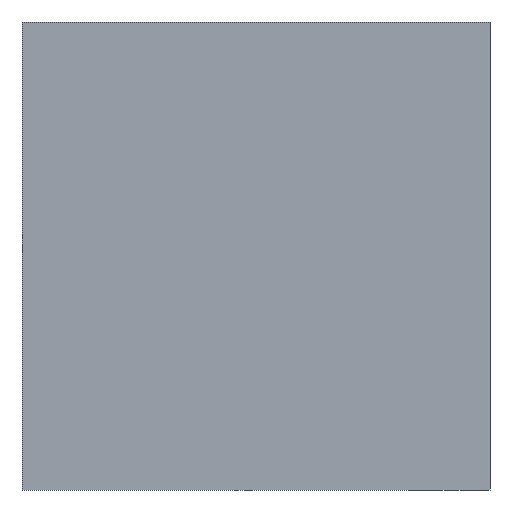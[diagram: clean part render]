
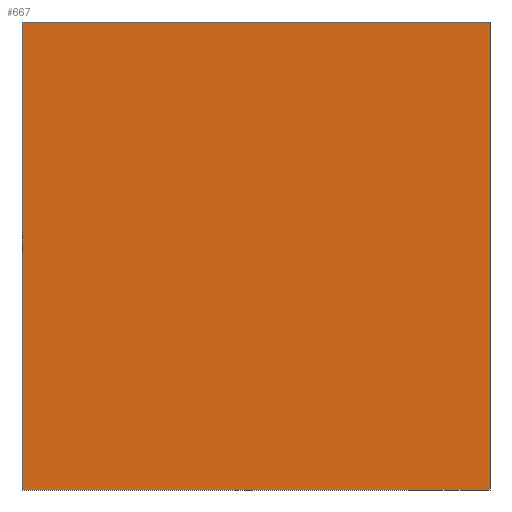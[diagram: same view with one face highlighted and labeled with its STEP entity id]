
A CAD part, front view. The second image highlights one B-rep face of the part: STEP entity #667.
In plain terms, the highlighted planar face has unit normal (0, -1, 0).
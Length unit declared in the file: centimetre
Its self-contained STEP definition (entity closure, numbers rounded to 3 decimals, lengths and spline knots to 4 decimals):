
#17 = FACE_OUTER_BOUND ( 'NONE', #215, .T. ) ;
#25 = EDGE_CURVE ( 'NONE', #267, #436, #59, .T. ) ;
#36 = EDGE_CURVE ( 'NONE', #436, #478, #603, .T. ) ;
#45 = ORIENTED_EDGE ( 'NONE', *, *, #129, .F. ) ;
#59 = LINE ( 'NONE', #291, #340 ) ;
#97 = PLANE ( 'NONE',  #318 ) ;
#129 = EDGE_CURVE ( 'NONE', #267, #962, #412, .T. ) ;
#215 = EDGE_LOOP ( 'NONE', ( #421, #599, #45, #556 ) ) ;
#238 = CARTESIAN_POINT ( 'NONE',  ( 1000., 0., 1000. ) ) ;
#267 = VERTEX_POINT ( 'NONE', #600 ) ;
#291 = CARTESIAN_POINT ( 'NONE',  ( 0., 0., 1000. ) ) ;
#313 = DIRECTION ( 'NONE',  ( 0., 0., 1. ) ) ;
#318 = AXIS2_PLACEMENT_3D ( 'NONE', #390, #845, #313 ) ;
#332 = CARTESIAN_POINT ( 'NONE',  ( 0., 0., 0. ) ) ;
#336 = VECTOR ( 'NONE', #550, 100. ) ;
#340 = VECTOR ( 'NONE', #520, 100. ) ;
#390 = CARTESIAN_POINT ( 'NONE',  ( 0., 0., 1000. ) ) ;
#403 = CARTESIAN_POINT ( 'NONE',  ( 1000., 0., 0. ) ) ;
#412 = LINE ( 'NONE', #810, #692 ) ;
#421 = ORIENTED_EDGE ( 'NONE', *, *, #36, .T. ) ;
#436 = VERTEX_POINT ( 'NONE', #332 ) ;
#447 = DIRECTION ( 'NONE',  ( 1., 0., 0. ) ) ;
#478 = VERTEX_POINT ( 'NONE', #403 ) ;
#489 = DIRECTION ( 'NONE',  ( 1., 0., 0. ) ) ;
#520 = DIRECTION ( 'NONE',  ( 0., 0., -1. ) ) ;
#550 = DIRECTION ( 'NONE',  ( 0., 0., -1. ) ) ;
#556 = ORIENTED_EDGE ( 'NONE', *, *, #25, .T. ) ;
#599 = ORIENTED_EDGE ( 'NONE', *, *, #707, .F. ) ;
#600 = CARTESIAN_POINT ( 'NONE',  ( 0., 0., 1000. ) ) ;
#603 = LINE ( 'NONE', #828, #820 ) ;
#667 = ADVANCED_FACE ( 'NONE', ( #17 ), #97, .F. ) ;
#692 = VECTOR ( 'NONE', #489, 100. ) ;
#707 = EDGE_CURVE ( 'NONE', #962, #478, #945, .T. ) ;
#767 = CARTESIAN_POINT ( 'NONE',  ( 1000., 0., 1000. ) ) ;
#810 = CARTESIAN_POINT ( 'NONE',  ( 0., 0., 1000. ) ) ;
#820 = VECTOR ( 'NONE', #447, 100. ) ;
#828 = CARTESIAN_POINT ( 'NONE',  ( 0., 0., 0. ) ) ;
#845 = DIRECTION ( 'NONE',  ( 0., 1., 0. ) ) ;
#945 = LINE ( 'NONE', #767, #336 ) ;
#962 = VERTEX_POINT ( 'NONE', #238 ) ;
